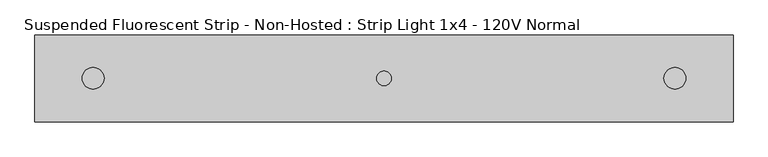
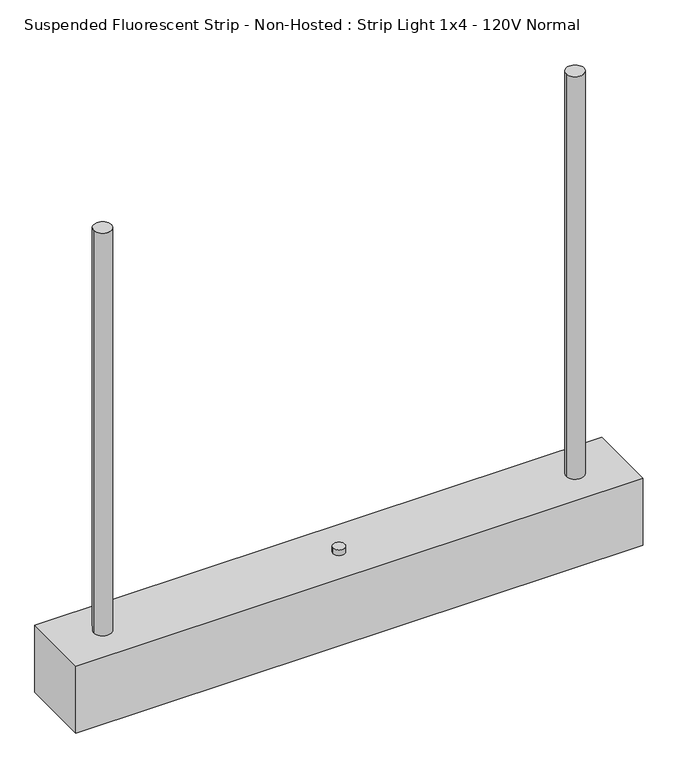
"""IFC4 building model written with IfcOpenShell, lengths in millimetres: light fixture geometry, Suspended Fluorescent Strip - Non-Hosted : Strip Light 1x4 - 120V Normal."""

from ifc_helpers import new_model, si_unit, point, frame, frame_2d, origin, origin_with_axes, origin_2d, place, context, project, spatial, polyline, circle_curve, trimmed, segment, composite_curve, outline, extrude, source, transform, mapped, element, save


def suspended_fluorescent_strip_non_hosted_strip_light_1x4_120v_f70b047a(model_context):
    return source(origin(), model_context, "Body", "SweptSolid", [
        extrude(outline(composite_curve([segment(trimmed(circle_curve(frame_2d((508.0, 0.0)), 19.05), [point((527.05, 0.0))], [point((488.95, 0.0))], False, "CARTESIAN"), True, "CONTINUOUS"), segment(trimmed(circle_curve(frame_2d((508.0, 0.0)), 19.05), [point((488.95, 0.0))], [point((527.05, 0.0))], False, "CARTESIAN"), True, "CONTINUOUS")], self_intersect=False)), frame((0.0, 0.0, 152.4), z_axis=(0.0, 0.0, 1.0), x_axis=(1.0, 0.0, 0.0)), (0.0, 0.0, 1.0), 914.4),
        extrude(outline(composite_curve([segment(trimmed(circle_curve(frame_2d((-508.0, 0.0)), 19.05), [point((-488.95, 0.0))], [point((-527.05, 0.0))], False, "CARTESIAN"), True, "CONTINUOUS"), segment(trimmed(circle_curve(frame_2d((-508.0, 0.0)), 19.05), [point((-527.05, 0.0))], [point((-488.95, 0.0))], False, "CARTESIAN"), True, "CONTINUOUS")], self_intersect=False)), frame((0.0, 0.0, 152.4), z_axis=(0.0, 0.0, 1.0), x_axis=(1.0, 0.0, 0.0)), (0.0, 0.0, 1.0), 914.4),
        extrude(outline(composite_curve([segment(trimmed(circle_curve(origin_2d(), 12.7), [point((-12.7, 0.0))], [point((12.7, 0.0))], False, "CARTESIAN"), True, "CONTINUOUS"), segment(trimmed(circle_curve(origin_2d(), 12.7), [point((12.7, 0.0))], [point((-12.7, 0.0))], False, "CARTESIAN"), True, "CONTINUOUS")], self_intersect=False)), frame((0.0, 0.0, 152.4), z_axis=(0.0, 0.0, 1.0), x_axis=(1.0, 0.0, 0.0)), (0.0, 0.0, 1.0), 12.7),
        extrude(outline(polyline([(609.6, -76.2), (-609.6, -76.2), (-609.6, 76.2), (609.6, 76.2), (609.6, -76.2)])), origin_with_axes(), (0.0, 0.0, 1.0), 152.4),
    ])


if __name__ == "__main__":
    model = new_model("IFC4")
    model_context = context("Model", 3, world=origin())
    ifc_project = project(units=[si_unit("LENGTHUNIT", "METRE", prefix="MILLI")], contexts=[model_context])
    site = spatial("IfcSite", under=ifc_project)
    building = spatial("IfcBuilding", under=site)
    placement = place(None, origin())
    suspended_fluorescent_strip_non_hosted_strip_light_1x4_120v_shape = suspended_fluorescent_strip_non_hosted_strip_light_1x4_120v_f70b047a(model_context)
    element("IfcLightFixture", 1, ObjectType="Suspended Fluorescent Strip - Non-Hosted : Strip Light 1x4 - 120V Normal", at=placement, inside=building, context=model_context, shape_type="MappedRepresentation", body=[
        mapped(suspended_fluorescent_strip_non_hosted_strip_light_1x4_120v_shape, transform((0.0, 0.0, 0.0), x_axis=(1.0, 0.0, 0.0), y_axis=(0.0, 1.0, 0.0), z_axis=(0.0, 0.0, 1.0))),
    ])
    save(model, "model.ifc")
